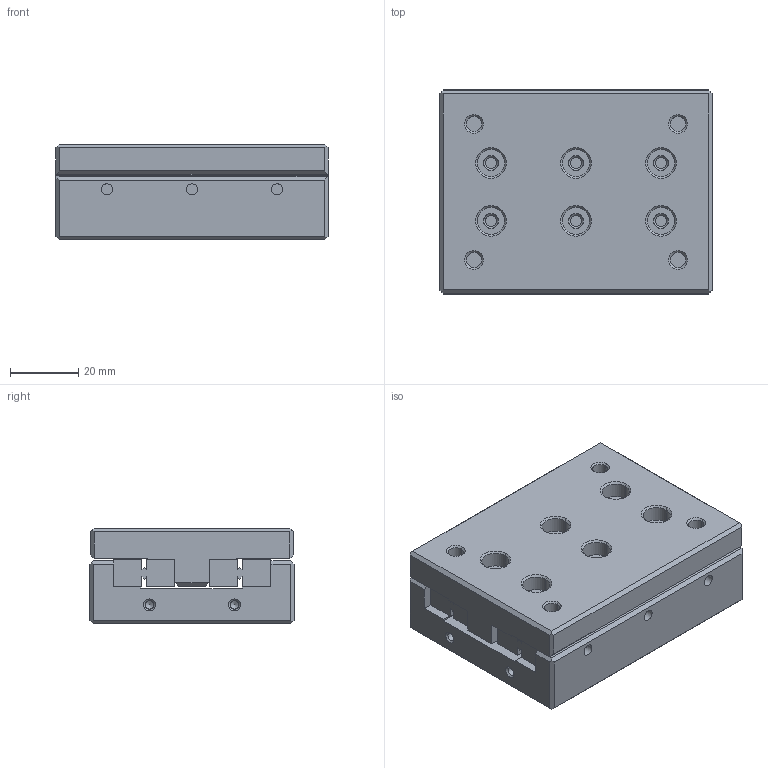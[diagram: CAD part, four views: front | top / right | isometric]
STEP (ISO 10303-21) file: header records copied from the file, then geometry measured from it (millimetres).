
FILE_DESCRIPTION(/* description */ (''),/* implementation_level */ '2;1');
FILE_NAME(/* name */ 'cru3080_stp.stp',/* time_stamp */ '2017-02-28T08:38:29+08:00',/* author */ (''),/* organization */ (''),/* preprocessor_version */ 'ST-DEVELOPER v15',/* originating_system */ 'SIEMENS PLM Software NX 8.5',/* authorisation */ '');
FILE_SCHEMA (('AUTOMOTIVE_DESIGN { 1 0 10303 214 3 1 1 1 }'));
Length unit declared in the file: millimetre
Products named in the file (4): CRU3080-02; CRU3080-GV3075; CRU3080-01; cru3080_stp
Assembly tree (4 placements, depth 2):
  cru3080_stp
    CRU3080-01
    CRU3080-GV3075  x2
    CRU3080-02
Bounding box: 80 x 60 x 28 mm (x, y, z)
Volume: 118118 mm3; surface area: 43667.9 mm2
Topology: 4 solids, 4 shells, 357 faces, 863 edges, 542 vertices
Faces by surface type: plane 120, cone 120, cylinder 117
Full cylindrical faces by diameter (mm): 2.5 x4, 3.3 x9, 4.5 x6, 8 x6
Entity records: 8128 total; most frequent: CARTESIAN_POINT 1520, DIRECTION 1400, ORIENTED_EDGE 1220, EDGE_CURVE 610, AXIS2_PLACEMENT_3D 568, EDGE_LOOP 424, VERTEX_POINT 408, ADVANCED_FACE 287
